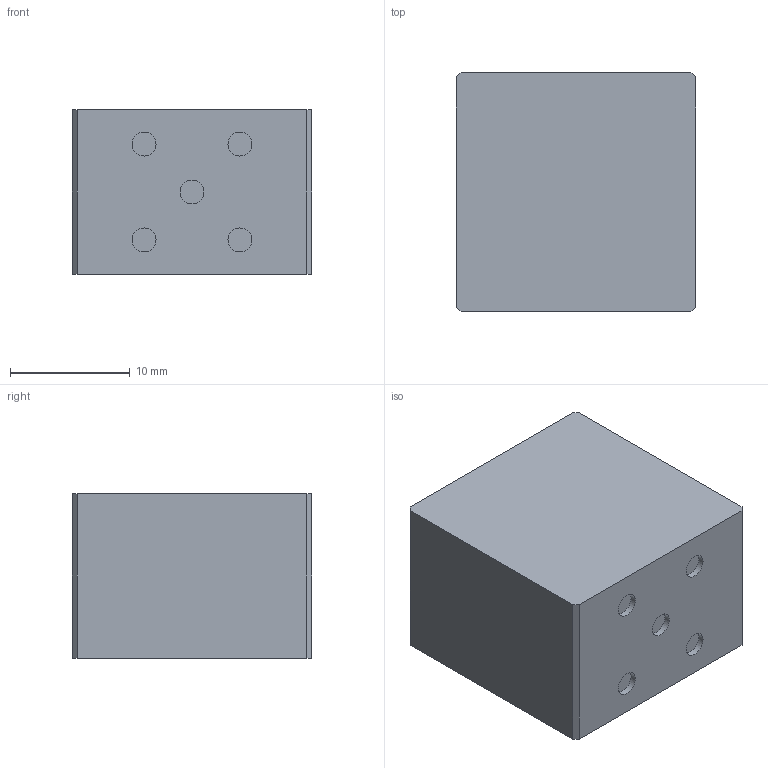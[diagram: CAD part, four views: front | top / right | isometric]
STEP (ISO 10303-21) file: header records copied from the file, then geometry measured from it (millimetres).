
FILE_DESCRIPTION(('Open CASCADE Model'),'2;1');
FILE_NAME('Open CASCADE Shape Model','2026-08-23T08:04:38',('Author'),( 'Open CASCADE'),'Open CASCADE STEP processor 7.9','Open CASCADE 7.9' ,'Unknown');
FILE_SCHEMA(('AUTOMOTIVE_DESIGN { 1 0 10303 214 1 1 1 1 }'));
Length unit declared in the file: millimetre
Products named in the file (2): =>[0:1:1:2]; COMPOUND
Assembly tree (1 placements, depth 2):
  =>[0:1:1:2]
    COMPOUND
Bounding box: 20 x 20 x 13.75 mm (x, y, z)
Volume: 5487.7 mm3; surface area: 1902.2 mm2
Topology: 1 solids, 1 shells, 20 faces, 39 edges, 26 vertices
Faces by surface type: plane 15, cylinder 5
Full cylindrical faces by diameter (mm): 2 x5
Entity records: 1079 total; most frequent: CARTESIAN_POINT 195, DIRECTION 166, LINE 97, VECTOR 97, ORIENTED_EDGE 78, PCURVE 78, DEFINITIONAL_REPRESENTATION 78, EDGE_CURVE 39
